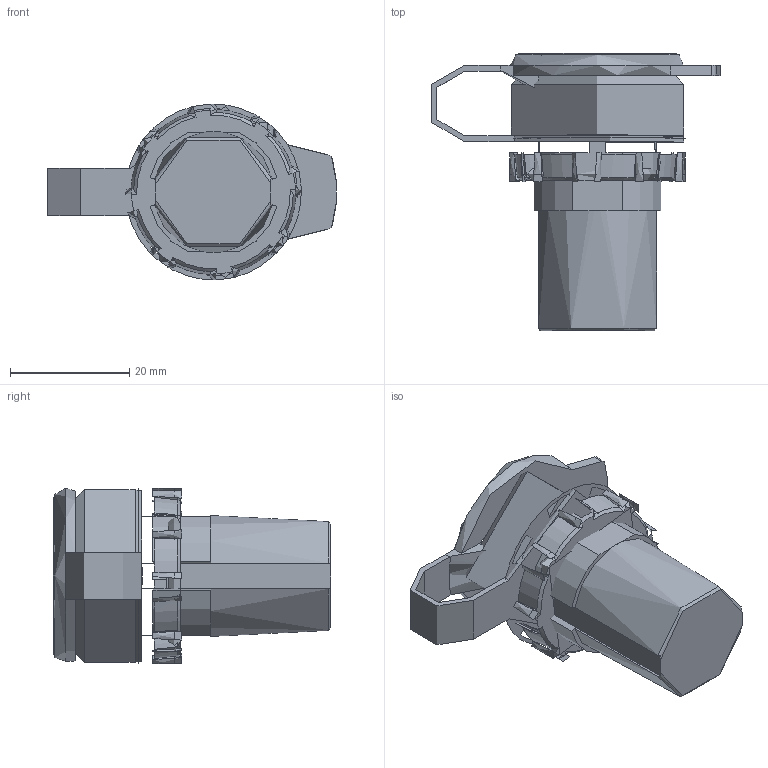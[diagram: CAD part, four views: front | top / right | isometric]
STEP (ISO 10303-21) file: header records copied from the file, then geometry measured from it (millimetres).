
FILE_DESCRIPTION((''),'2; 1');
FILE_NAME('','2026-03-26T14:12:14',(''),(''),'CST STEP Exporter V1.0','Unknown','');
FILE_SCHEMA(('CONFIG_CONTROL_DESIGN'));
Length unit declared in the file: metre
Assembly tree (3 placements, depth 2):
  (unnamed)
    (unnamed)
    (unnamed)
    (unnamed)
Bounding box: 48.43 x 46.5 x 29.5 mm (x, y, z)
Topology: 0 solids, 116 shells, 187 faces, 537 edges, 434 vertices
Faces by surface type: plane 75, bspline 32, cylinder 27, torus 19, cone 17, extrusion 15, sphere 2
Full cylindrical faces by diameter (mm): 2 x16, 29 x1, 29.5 x1
Entity records: 12596 total; most frequent: CARTESIAN_POINT 5735, ORIENTED_EDGE 1019, DIRECTION 786, EDGE_CURVE 555, VERTEX_POINT 372, B_SPLINE_CURVE_WITH_KNOTS 333, AXIS2_PLACEMENT_3D 284, DEFINITIONAL_REPRESENTATION 251
